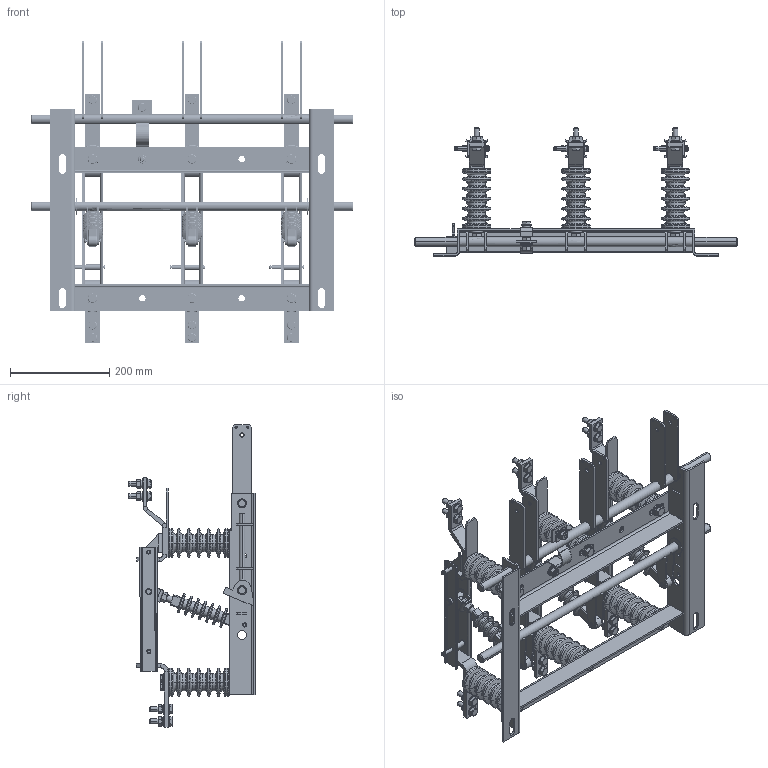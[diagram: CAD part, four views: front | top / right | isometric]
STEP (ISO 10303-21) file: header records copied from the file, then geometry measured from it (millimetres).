
FILE_DESCRIPTION (( 'STEP AP214' ), '1' );
FILE_NAME ('Ðàçúåäèíèòåëü âûñîêîâîëüòíûé ÐÂÇ-10630-II-ÓÕË2 (ñ ïðèâ).STEP', '2023-02-03T10:29:54', ( '' ), ( '' ), 'SwSTEP 2.0', 'SolidWorks 2018', '' );
FILE_SCHEMA (( 'AUTOMOTIVE_DESIGN' ));
Length unit declared in the file: millimetre
Products named in the file (1): Ðàçúåäèíèòåëü âûñîêîâîëüòíûé ÐÂÇ-10630-II-ÓÕË2 (ñ ïðèâ)
Bounding box: 650 x 257.23 x 609.5 mm (x, y, z)
Volume: 3389389.2 mm3; surface area: 1125227.4 mm2
Topology: 1 solids, 25 shells, 3106 faces, 7379 edges, 4515 vertices
Faces by surface type: plane 1390, cylinder 971, cone 469, torus 276
Full cylindrical faces by diameter (mm): 9.197 x3, 9.288 x1, 10.157 x4, 10.603 x2, 10.8 x12, 10.827 x3, 12.35 x12, 13 x3, 13.278 x3, 14.398 x3, 14.444 x3, 15.2 x6, 18.448 x4, 19.991 x1
Entity records: 109235 total; most frequent: CARTESIAN_POINT 38421, DIRECTION 15046, ORIENTED_EDGE 14444, EDGE_CURVE 7222, AXIS2_PLACEMENT_3D 5931, VERTEX_POINT 4434, EDGE_LOOP 3560, VECTOR 3184
